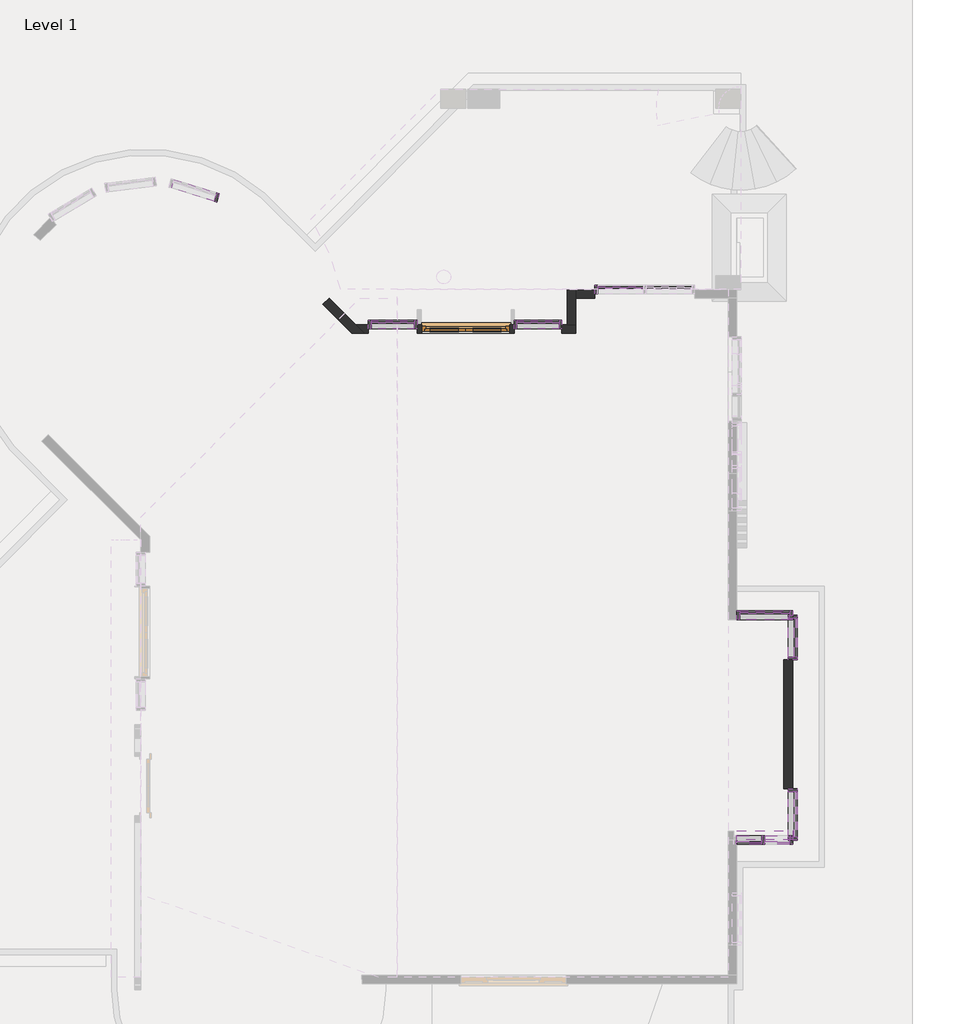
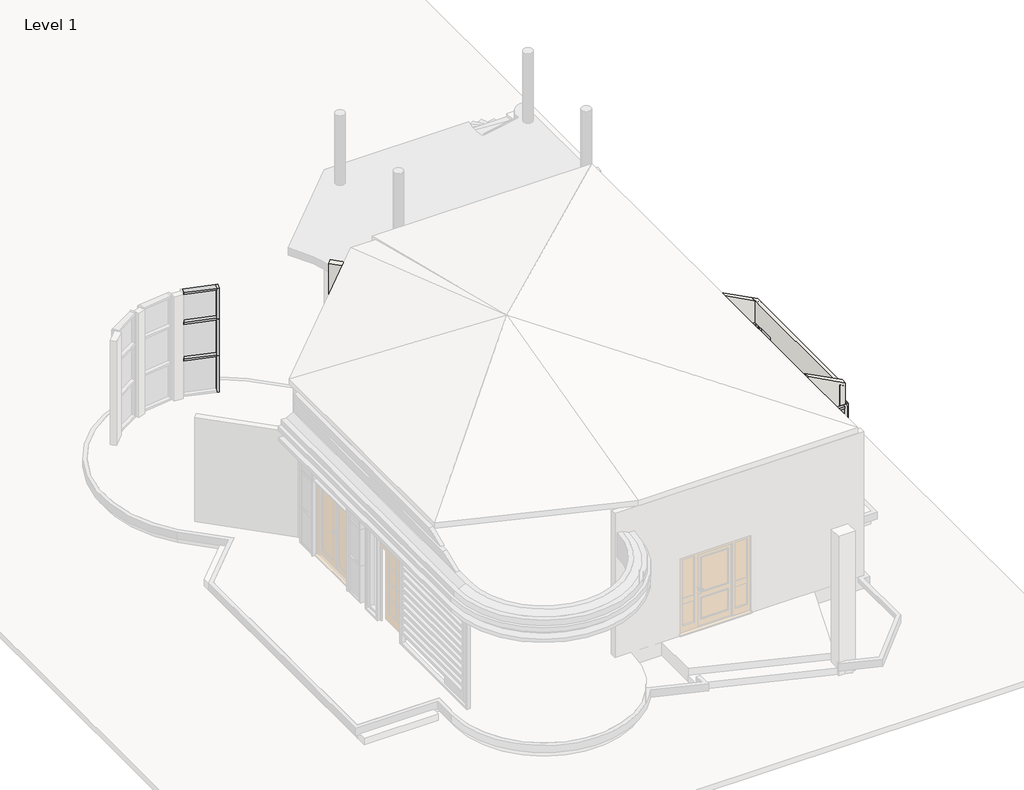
# One storey, part 3 of 4: 72 members, 23 plates, 9 walls, 1 door.
"""IFC4 building model written with IfcOpenShell, lengths in millimetres."""

from ifc_helpers import new_model, si_unit, frame, origin, place, context, project, spatial, polyline, outline, extrude, faceted_brep, transform, mapped, element, save
from components import extdbl_3_1510_x_2110mm_da252324, rectangular_mullion_50_x_150mm_8b63fd42, rectangular_mullion_50_x_150mm_eeb88b28, rectangular_mullion_50_x_150mm_bbba4ab8, rectangular_mullion_50_x_150mm_13f891bf, rectangular_mullion_50_x_150mm_daea3674, rectangular_mullion_50_x_150mm_ed00b6b8, rectangular_mullion_50_x_150mm_bbc1c4ea, rectangular_mullion_50_x_150mm_0f23942f, rectangular_mullion_50_x_150mm_effd6c6d, rectangular_mullion_50_x_150mm_68280b9f, rectangular_mullion_50_x_150mm_601b28fc, rectangular_mullion_50_x_150mm_03f9fa20, rectangular_mullion_50_x_150mm_bf936ab8, rectangular_mullion_50_x_150mm_5cce3f76, rectangular_mullion_50_x_150mm_32319f50, rectangular_mullion_50_x_150mm_64002b5b, rectangular_mullion_50_x_150mm_2829d028, rectangular_mullion_50_x_150mm_963f4f0b, rectangular_mullion_50_x_150mm_ac1718ee, rectangular_mullion_50_x_150mm_eeafe6a4, rectangular_mullion_50_x_150mm_7ec2f866, rectangular_mullion_50_x_150mm_f6b4d59c, rectangular_mullion_50_x_150mm_e82de0b1, system_panel_glazed_e5dbf5a0, system_panel_glazed_14a8cdc4, system_panel_glazed_03360dd4, system_panel_glazed_a2a6a1f5, system_panel_glazed_5b6b6e01, system_panel_glazed_015eb620, system_panel_glazed_5130c531, system_panel_glazed_84d5cb09, system_panel_glazed_d356d63c, system_panel_glazed_c90d999c, system_panel_glazed_4ffc5bf7, system_panel_glazed_0829237f, system_panel_glazed_30afbcb2, system_panel_glazed_d38c71d5, system_panel_glazed_9c9de1b5, system_panel_glazed_0de45067, system_panel_glazed_2309bc3e, system_panel_glazed_d0d156c8

model = new_model("IFC4")

# Units and contexts
model_context = context("Model", 3, world=origin())
ifc_project = project(units=[si_unit("LENGTHUNIT", "METRE", prefix="MILLI")], contexts=[model_context])

# Site, building, storey
site = spatial("IfcSite", under=ifc_project)
building = spatial("IfcBuilding", under=site)
storey = spatial("IfcBuildingStorey", under=building, Name="Level 1", Elevation=0.0)

# Door
placement = place(None, origin())
extdbl_3_1510_x_2110mm_shape = extdbl_3_1510_x_2110mm_da252324(model_context)
element("IfcDoor", 1, ObjectType="ExtDbl (3) : 1510 x 2110mm", at=placement, inside=storey, context=model_context, shape_type="MappedRepresentation", body=[
    mapped(extdbl_3_1510_x_2110mm_shape, transform((36377.9045275, 28118.7215248, 360.0), x_axis=(1.0, 0.0, 0.0), y_axis=(0.0, 1.0, 0.0), z_axis=(0.0, 0.0, 1.0))),
])

# Members
rectangular_mullion_50_x_150mm_shape = rectangular_mullion_50_x_150mm_8b63fd42(model_context)
element("IfcMember", 2, ObjectType="Rectangular Mullion : 50 x 150mm", at=placement, inside=storey, context=model_context, shape_type="MappedRepresentation", body=[
    mapped(rectangular_mullion_50_x_150mm_shape, transform((32096.3492869, 30375.1006846, 1360.0), x_axis=(0.0, 0.0, 1.0), y_axis=(-0.29965542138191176, -0.954047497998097, 0.0), z_axis=(0.954047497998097, -0.29965542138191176, 0.0))),
])
rectangular_mullion_50_x_150mm_2_shape = rectangular_mullion_50_x_150mm_eeb88b28(model_context)
element("IfcMember", 3, ObjectType="Rectangular Mullion : 50 x 150mm", at=placement, inside=storey, context=model_context, shape_type="MappedRepresentation", body=[
    mapped(rectangular_mullion_50_x_150mm_2_shape, transform((32144.0516618, 30360.1179136, 360.0), x_axis=(0.954047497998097, -0.29965542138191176, 0.0), y_axis=(-0.29965542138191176, -0.954047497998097, 0.0), z_axis=(0.0, 0.0, -1.0))),
])
element("IfcMember", 4, ObjectType="Rectangular Mullion : 50 x 150mm", at=placement, inside=storey, context=model_context, shape_type="MappedRepresentation", body=[
    mapped(rectangular_mullion_50_x_150mm_2_shape, transform((41969.1830624, 23222.4424795, 360.0), x_axis=(1.0, 0.0, 0.0), y_axis=(0.0, -1.0, 0.0), z_axis=(0.0, 0.0, -1.0))),
])
element("IfcMember", 5, ObjectType="Rectangular Mullion : 50 x 150mm", at=placement, inside=storey, context=model_context, shape_type="MappedRepresentation", body=[
    mapped(rectangular_mullion_50_x_150mm_2_shape, transform((41969.1830624, 22457.4424795, 360.0), x_axis=(0.0, -1.0, 0.0), y_axis=(-1.0, 0.0, 0.0), z_axis=(0.0, 0.0, -1.0))),
])
element("IfcMember", 6, ObjectType="Rectangular Mullion : 50 x 150mm", at=placement, inside=storey, context=model_context, shape_type="MappedRepresentation", body=[
    mapped(rectangular_mullion_50_x_150mm_2_shape, transform((35551.6259926, 28193.7215248, 360.0), x_axis=(1.0, 0.0, 0.0), y_axis=(0.0, -1.0, 0.0), z_axis=(0.0, 0.0, -1.0))),
])
element("IfcMember", 7, ObjectType="Rectangular Mullion : 50 x 150mm", at=placement, inside=storey, context=model_context, shape_type="MappedRepresentation", body=[
    mapped(rectangular_mullion_50_x_150mm_2_shape, transform((38024.1830624, 28193.7215248, 360.0), x_axis=(1.0, 0.0, 0.0), y_axis=(0.0, -1.0, 0.0), z_axis=(0.0, 0.0, -1.0))),
])
element("IfcMember", 8, ObjectType="Rectangular Mullion : 50 x 150mm", at=placement, inside=storey, context=model_context, shape_type="MappedRepresentation", body=[
    mapped(rectangular_mullion_50_x_150mm_2_shape, transform((41969.1830624, 19377.4424795, 342.0479065), x_axis=(0.0, -1.0, 0.0), y_axis=(-1.0, 0.0, 0.0), z_axis=(0.0, 0.0, -1.0))),
])
element("IfcMember", 9, ObjectType="Rectangular Mullion : 50 x 150mm", at=placement, inside=storey, context=model_context, shape_type="MappedRepresentation", body=[
    mapped(rectangular_mullion_50_x_150mm_2_shape, transform((32144.0516618, 30360.1179136, 1360.0), x_axis=(0.954047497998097, -0.2996554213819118, 0.0), y_axis=(-0.2996554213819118, -0.954047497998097, 0.0), z_axis=(0.0, 0.0, -1.0))),
])
element("IfcMember", 10, ObjectType="Rectangular Mullion : 50 x 150mm", at=placement, inside=storey, context=model_context, shape_type="MappedRepresentation", body=[
    mapped(rectangular_mullion_50_x_150mm_2_shape, transform((41969.1830624, 23222.4424795, 1360.0), x_axis=(1.0, 0.0, 0.0), y_axis=(0.0, -1.0, 0.0), z_axis=(0.0, 0.0, -1.0))),
])
element("IfcMember", 11, ObjectType="Rectangular Mullion : 50 x 150mm", at=placement, inside=storey, context=model_context, shape_type="MappedRepresentation", body=[
    mapped(rectangular_mullion_50_x_150mm_2_shape, transform((41969.1830624, 22457.4424795, 1360.0), x_axis=(0.0, -1.0, 0.0), y_axis=(-1.0, 0.0, 0.0), z_axis=(0.0, 0.0, -1.0))),
])
element("IfcMember", 12, ObjectType="Rectangular Mullion : 50 x 150mm", at=placement, inside=storey, context=model_context, shape_type="MappedRepresentation", body=[
    mapped(rectangular_mullion_50_x_150mm_2_shape, transform((41969.1830624, 19377.4424795, 1342.0479065), x_axis=(0.0, -1.0, 0.0), y_axis=(-1.0, 0.0, 0.0), z_axis=(0.0, 0.0, -1.0))),
])
element("IfcMember", 13, ObjectType="Rectangular Mullion : 50 x 150mm", at=placement, inside=storey, context=model_context, shape_type="MappedRepresentation", body=[
    mapped(rectangular_mullion_50_x_150mm_2_shape, transform((35551.6259926, 28193.7215248, 1360.0), x_axis=(1.0, 0.0, 0.0), y_axis=(0.0, -1.0, 0.0), z_axis=(0.0, 0.0, -1.0))),
])
element("IfcMember", 14, ObjectType="Rectangular Mullion : 50 x 150mm", at=placement, inside=storey, context=model_context, shape_type="MappedRepresentation", body=[
    mapped(rectangular_mullion_50_x_150mm_2_shape, transform((38024.1830624, 28193.7215248, 1360.0), x_axis=(1.0, 0.0, 0.0), y_axis=(0.0, -1.0, 0.0), z_axis=(0.0, 0.0, -1.0))),
])
element("IfcMember", 15, ObjectType="Rectangular Mullion : 50 x 150mm", at=placement, inside=storey, context=model_context, shape_type="MappedRepresentation", body=[
    mapped(rectangular_mullion_50_x_150mm_2_shape, transform((41014.1830624, 23222.4424795, 1360.0), x_axis=(-1.0, 0.0, 0.0), y_axis=(0.0, -1.0, 0.0), z_axis=(0.0, 0.0, 1.0))),
])
element("IfcMember", 16, ObjectType="Rectangular Mullion : 50 x 150mm", at=placement, inside=storey, context=model_context, shape_type="MappedRepresentation", body=[
    mapped(rectangular_mullion_50_x_150mm_2_shape, transform((41969.1830624, 23222.4424795, 1360.0), x_axis=(0.0, 1.0, 0.0), y_axis=(-1.0, 0.0, 0.0), z_axis=(0.0, 0.0, 1.0))),
])
element("IfcMember", 17, ObjectType="Rectangular Mullion : 50 x 150mm", at=placement, inside=storey, context=model_context, shape_type="MappedRepresentation", body=[
    mapped(rectangular_mullion_50_x_150mm_2_shape, transform((41969.1830624, 19377.4424795, 1342.0479065), x_axis=(1.0, 0.0, 0.0), y_axis=(0.0, 1.0, 0.0), z_axis=(0.0, 0.0, 1.0))),
])
element("IfcMember", 18, ObjectType="Rectangular Mullion : 50 x 150mm", at=placement, inside=storey, context=model_context, shape_type="MappedRepresentation", body=[
    mapped(rectangular_mullion_50_x_150mm_2_shape, transform((41969.1830624, 20257.4424795, 1342.0479065), x_axis=(0.0, 1.0, 0.0), y_axis=(-1.0, 0.0, 0.0), z_axis=(0.0, 0.0, 1.0))),
])
element("IfcMember", 19, ObjectType="Rectangular Mullion : 50 x 150mm", at=placement, inside=storey, context=model_context, shape_type="MappedRepresentation", body=[
    mapped(rectangular_mullion_50_x_150mm_2_shape, transform((34711.6259926, 28193.7215248, 1360.0), x_axis=(-1.0, 0.0, 0.0), y_axis=(0.0, -1.0, 0.0), z_axis=(0.0, 0.0, 1.0))),
])
element("IfcMember", 20, ObjectType="Rectangular Mullion : 50 x 150mm", at=placement, inside=storey, context=model_context, shape_type="MappedRepresentation", body=[
    mapped(rectangular_mullion_50_x_150mm_2_shape, transform((37204.1830624, 28193.7215248, 1360.0), x_axis=(-1.0, 0.0, 0.0), y_axis=(0.0, -1.0, 0.0), z_axis=(0.0, 0.0, 1.0))),
])
element("IfcMember", 21, ObjectType="Rectangular Mullion : 50 x 150mm", at=placement, inside=storey, context=model_context, shape_type="MappedRepresentation", body=[
    mapped(rectangular_mullion_50_x_150mm_2_shape, transform((38584.524443, 28793.7215248, 1000.0), x_axis=(-1.0, 0.0, 0.0), y_axis=(0.0, -1.0, 0.0), z_axis=(0.0, 0.0, 1.0))),
])
element("IfcMember", 22, ObjectType="Rectangular Mullion : 50 x 150mm", at=placement, inside=storey, context=model_context, shape_type="MappedRepresentation", body=[
    mapped(rectangular_mullion_50_x_150mm_2_shape, transform((41014.1830624, 23222.4424795, 2360.0), x_axis=(-1.0, 0.0, 0.0), y_axis=(0.0, -1.0, 0.0), z_axis=(0.0, 0.0, 1.0))),
])
element("IfcMember", 23, ObjectType="Rectangular Mullion : 50 x 150mm", at=placement, inside=storey, context=model_context, shape_type="MappedRepresentation", body=[
    mapped(rectangular_mullion_50_x_150mm_2_shape, transform((41969.1830624, 23222.4424795, 2360.0), x_axis=(0.0, 1.0, 0.0), y_axis=(-1.0, 0.0, 0.0), z_axis=(0.0, 0.0, 1.0))),
])
element("IfcMember", 24, ObjectType="Rectangular Mullion : 50 x 150mm", at=placement, inside=storey, context=model_context, shape_type="MappedRepresentation", body=[
    mapped(rectangular_mullion_50_x_150mm_2_shape, transform((41969.1830624, 19377.4424795, 2342.0479065), x_axis=(1.0, 0.0, 0.0), y_axis=(0.0, 1.0, 0.0), z_axis=(0.0, 0.0, 1.0))),
])
element("IfcMember", 25, ObjectType="Rectangular Mullion : 50 x 150mm", at=placement, inside=storey, context=model_context, shape_type="MappedRepresentation", body=[
    mapped(rectangular_mullion_50_x_150mm_2_shape, transform((41969.1830624, 20257.4424795, 2342.0479065), x_axis=(0.0, 1.0, 0.0), y_axis=(-1.0, 0.0, 0.0), z_axis=(0.0, 0.0, 1.0))),
])
element("IfcMember", 26, ObjectType="Rectangular Mullion : 50 x 150mm", at=placement, inside=storey, context=model_context, shape_type="MappedRepresentation", body=[
    mapped(rectangular_mullion_50_x_150mm_2_shape, transform((34711.6259926, 28193.7215248, 2360.0), x_axis=(-1.0, 0.0, 0.0), y_axis=(0.0, -1.0, 0.0), z_axis=(0.0, 0.0, 1.0))),
])
element("IfcMember", 27, ObjectType="Rectangular Mullion : 50 x 150mm", at=placement, inside=storey, context=model_context, shape_type="MappedRepresentation", body=[
    mapped(rectangular_mullion_50_x_150mm_2_shape, transform((37204.1830624, 28193.7215248, 2360.0), x_axis=(-1.0, 0.0, 0.0), y_axis=(0.0, -1.0, 0.0), z_axis=(0.0, 0.0, 1.0))),
])
element("IfcMember", 28, ObjectType="Rectangular Mullion : 50 x 150mm", at=placement, inside=storey, context=model_context, shape_type="MappedRepresentation", body=[
    mapped(rectangular_mullion_50_x_150mm_2_shape, transform((38584.524443, 28793.7215248, 2000.0), x_axis=(-1.0, 0.0, 0.0), y_axis=(0.0, -1.0, 0.0), z_axis=(0.0, 0.0, 1.0))),
])
element("IfcMember", 29, ObjectType="Rectangular Mullion : 50 x 150mm", at=placement, inside=storey, context=model_context, shape_type="MappedRepresentation", body=[
    mapped(rectangular_mullion_50_x_150mm_2_shape, transform((38584.524443, 28793.7215248, 3000.0), x_axis=(-1.0, 0.0, 0.0), y_axis=(0.0, -1.0, 0.0), z_axis=(0.0, 0.0, 1.0))),
])
rectangular_mullion_50_x_150mm_3_shape = rectangular_mullion_50_x_150mm_bbba4ab8(model_context)
element("IfcMember", 30, ObjectType="Rectangular Mullion : 50 x 150mm", at=placement, inside=storey, context=model_context, shape_type="MappedRepresentation", body=[
    mapped(rectangular_mullion_50_x_150mm_3_shape, transform((41014.1830624, 23222.4424795, 3200.0), x_axis=(-1.0, 0.0, 0.0), y_axis=(0.0, -1.0, 0.0), z_axis=(0.0, 0.0, 1.0))),
])
element("IfcMember", 31, ObjectType="Rectangular Mullion : 50 x 150mm", at=placement, inside=storey, context=model_context, shape_type="MappedRepresentation", body=[
    mapped(rectangular_mullion_50_x_150mm_3_shape, transform((41969.1830624, 23222.4424795, 3200.0), x_axis=(0.0, 1.0, 0.0), y_axis=(-1.0, 0.0, 0.0), z_axis=(0.0, 0.0, 1.0))),
])
element("IfcMember", 32, ObjectType="Rectangular Mullion : 50 x 150mm", at=placement, inside=storey, context=model_context, shape_type="MappedRepresentation", body=[
    mapped(rectangular_mullion_50_x_150mm_3_shape, transform((32144.0516618, 30360.1179136, 2360.0), x_axis=(0.954047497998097, -0.2996554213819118, 0.0), y_axis=(-0.2996554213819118, -0.954047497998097, 0.0), z_axis=(0.0, 0.0, -1.0))),
])
element("IfcMember", 33, ObjectType="Rectangular Mullion : 50 x 150mm", at=placement, inside=storey, context=model_context, shape_type="MappedRepresentation", body=[
    mapped(rectangular_mullion_50_x_150mm_3_shape, transform((41969.1830624, 23222.4424795, 2360.0), x_axis=(1.0, 0.0, 0.0), y_axis=(0.0, -1.0, 0.0), z_axis=(0.0, 0.0, -1.0))),
])
element("IfcMember", 34, ObjectType="Rectangular Mullion : 50 x 150mm", at=placement, inside=storey, context=model_context, shape_type="MappedRepresentation", body=[
    mapped(rectangular_mullion_50_x_150mm_3_shape, transform((41969.1830624, 22457.4424795, 2360.0), x_axis=(0.0, -1.0, 0.0), y_axis=(-1.0, 0.0, 0.0), z_axis=(0.0, 0.0, -1.0))),
])
rectangular_mullion_50_x_150mm_4_shape = rectangular_mullion_50_x_150mm_13f891bf(model_context)
element("IfcMember", 35, ObjectType="Rectangular Mullion : 50 x 150mm", at=placement, inside=storey, context=model_context, shape_type="MappedRepresentation", body=[
    mapped(rectangular_mullion_50_x_150mm_4_shape, transform((32096.3492869, 30375.1006846, 3200.0), x_axis=(0.0, 0.0, 1.0), y_axis=(-0.29965542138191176, -0.954047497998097, 0.0), z_axis=(0.954047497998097, -0.29965542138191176, 0.0))),
])
element("IfcMember", 36, ObjectType="Rectangular Mullion : 50 x 150mm", at=placement, inside=storey, context=model_context, shape_type="MappedRepresentation", body=[
    mapped(rectangular_mullion_50_x_150mm_shape, transform((32096.3492869, 30375.1006846, 2360.0), x_axis=(0.0, 0.0, 1.0), y_axis=(-0.29965542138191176, -0.954047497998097, 0.0), z_axis=(0.954047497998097, -0.29965542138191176, 0.0))),
])
rectangular_mullion_50_x_150mm_5_shape = rectangular_mullion_50_x_150mm_daea3674(model_context)
element("IfcMember", 37, ObjectType="Rectangular Mullion : 50 x 150mm", at=placement, inside=storey, context=model_context, shape_type="MappedRepresentation", body=[
    mapped(rectangular_mullion_50_x_150mm_5_shape, transform((41489.1830624, 19377.4424795, 3200.0), x_axis=(0.0, 0.0, 1.0), y_axis=(0.0, 1.0, 0.0), z_axis=(-1.0, 0.0, 0.0))),
])
element("IfcMember", 38, ObjectType="Rectangular Mullion : 50 x 150mm", at=placement, inside=storey, context=model_context, shape_type="MappedRepresentation", body=[
    mapped(rectangular_mullion_50_x_150mm_5_shape, transform((41439.1830624, 19377.4424795, 342.0479065), x_axis=(0.0, 0.0, -1.0), y_axis=(0.0, 1.0, 0.0), z_axis=(1.0, 0.0, 0.0))),
])
rectangular_mullion_50_x_150mm_6_shape = rectangular_mullion_50_x_150mm_ed00b6b8(model_context)
element("IfcMember", 39, ObjectType="Rectangular Mullion : 50 x 150mm", at=placement, inside=storey, context=model_context, shape_type="MappedRepresentation", body=[
    mapped(rectangular_mullion_50_x_150mm_6_shape, transform((41489.1830624, 19377.4424795, 1342.0479065), x_axis=(0.0, 0.0, 1.0), y_axis=(0.0, 1.0, 0.0), z_axis=(-1.0, 0.0, 0.0))),
])
element("IfcMember", 40, ObjectType="Rectangular Mullion : 50 x 150mm", at=placement, inside=storey, context=model_context, shape_type="MappedRepresentation", body=[
    mapped(rectangular_mullion_50_x_150mm_6_shape, transform((41009.1830624, 19377.4424795, 1342.0479065), x_axis=(0.0, 0.0, 1.0), y_axis=(0.0, 1.0, 0.0), z_axis=(-1.0, 0.0, 0.0))),
])
element("IfcMember", 41, ObjectType="Rectangular Mullion : 50 x 150mm", at=placement, inside=storey, context=model_context, shape_type="MappedRepresentation", body=[
    mapped(rectangular_mullion_50_x_150mm_6_shape, transform((41489.1830624, 19377.4424795, 2342.0479065), x_axis=(0.0, 0.0, 1.0), y_axis=(0.0, 1.0, 0.0), z_axis=(-1.0, 0.0, 0.0))),
])
element("IfcMember", 42, ObjectType="Rectangular Mullion : 50 x 150mm", at=placement, inside=storey, context=model_context, shape_type="MappedRepresentation", body=[
    mapped(rectangular_mullion_50_x_150mm_6_shape, transform((41009.1830624, 19377.4424795, 2342.0479065), x_axis=(0.0, 0.0, 1.0), y_axis=(0.0, 1.0, 0.0), z_axis=(-1.0, 0.0, 0.0))),
])
rectangular_mullion_50_x_150mm_7_shape = rectangular_mullion_50_x_150mm_bbc1c4ea(model_context)
element("IfcMember", 43, ObjectType="Rectangular Mullion : 50 x 150mm", at=placement, inside=storey, context=model_context, shape_type="MappedRepresentation", body=[
    mapped(rectangular_mullion_50_x_150mm_7_shape, transform((41464.1830624, 19377.4424795, 342.0479065), x_axis=(-1.0, 0.0, 0.0), y_axis=(0.0, 1.0, 0.0), z_axis=(0.0, 0.0, -1.0))),
])
element("IfcMember", 44, ObjectType="Rectangular Mullion : 50 x 150mm", at=placement, inside=storey, context=model_context, shape_type="MappedRepresentation", body=[
    mapped(rectangular_mullion_50_x_150mm_7_shape, transform((41464.1830624, 19377.4424795, 1342.0479065), x_axis=(-1.0, 0.0, 0.0), y_axis=(0.0, 1.0, 0.0), z_axis=(0.0, 0.0, -1.0))),
])
rectangular_mullion_50_x_150mm_8_shape = rectangular_mullion_50_x_150mm_0f23942f(model_context)
element("IfcMember", 45, ObjectType="Rectangular Mullion : 50 x 150mm", at=placement, inside=storey, context=model_context, shape_type="MappedRepresentation", body=[
    mapped(rectangular_mullion_50_x_150mm_8_shape, transform((35501.6259926, 28193.7215248, 2963.5829413), x_axis=(0.0, 0.0, 1.0), y_axis=(0.0, -1.0, 0.0), z_axis=(1.0, 0.0, 0.0))),
])
element("IfcMember", 46, ObjectType="Rectangular Mullion : 50 x 150mm", at=placement, inside=storey, context=model_context, shape_type="MappedRepresentation", body=[
    mapped(rectangular_mullion_50_x_150mm_8_shape, transform((34761.6259926, 28193.7215248, 360.0), x_axis=(0.0, 0.0, -1.0), y_axis=(0.0, -1.0, 0.0), z_axis=(-1.0, 0.0, 0.0))),
])
rectangular_mullion_50_x_150mm_9_shape = rectangular_mullion_50_x_150mm_effd6c6d(model_context)
element("IfcMember", 47, ObjectType="Rectangular Mullion : 50 x 150mm", at=placement, inside=storey, context=model_context, shape_type="MappedRepresentation", body=[
    mapped(rectangular_mullion_50_x_150mm_9_shape, transform((35501.6259926, 28193.7215248, 1360.0), x_axis=(0.0, 0.0, 1.0), y_axis=(0.0, -1.0, 0.0), z_axis=(1.0, 0.0, 0.0))),
])
element("IfcMember", 48, ObjectType="Rectangular Mullion : 50 x 150mm", at=placement, inside=storey, context=model_context, shape_type="MappedRepresentation", body=[
    mapped(rectangular_mullion_50_x_150mm_9_shape, transform((35501.6259926, 28193.7215248, 2360.0), x_axis=(0.0, 0.0, 1.0), y_axis=(0.0, -1.0, 0.0), z_axis=(1.0, 0.0, 0.0))),
])
rectangular_mullion_50_x_150mm_10_shape = rectangular_mullion_50_x_150mm_68280b9f(model_context)
element("IfcMember", 49, ObjectType="Rectangular Mullion : 50 x 150mm", at=placement, inside=storey, context=model_context, shape_type="MappedRepresentation", body=[
    mapped(rectangular_mullion_50_x_150mm_10_shape, transform((37974.1830624, 28193.7215248, 2951.4776696), x_axis=(0.0, 0.0, 1.0), y_axis=(0.0, -1.0, 0.0), z_axis=(1.0, 0.0, 0.0))),
])
element("IfcMember", 50, ObjectType="Rectangular Mullion : 50 x 150mm", at=placement, inside=storey, context=model_context, shape_type="MappedRepresentation", body=[
    mapped(rectangular_mullion_50_x_150mm_10_shape, transform((37254.1830624, 28193.7215248, 360.0), x_axis=(0.0, 0.0, -1.0), y_axis=(0.0, -1.0, 0.0), z_axis=(-1.0, 0.0, 0.0))),
])
rectangular_mullion_50_x_150mm_11_shape = rectangular_mullion_50_x_150mm_601b28fc(model_context)
element("IfcMember", 51, ObjectType="Rectangular Mullion : 50 x 150mm", at=placement, inside=storey, context=model_context, shape_type="MappedRepresentation", body=[
    mapped(rectangular_mullion_50_x_150mm_11_shape, transform((37974.1830624, 28193.7215248, 1360.0), x_axis=(0.0, 0.0, 1.0), y_axis=(0.0, -1.0, 0.0), z_axis=(1.0, 0.0, 0.0))),
])
element("IfcMember", 52, ObjectType="Rectangular Mullion : 50 x 150mm", at=placement, inside=storey, context=model_context, shape_type="MappedRepresentation", body=[
    mapped(rectangular_mullion_50_x_150mm_11_shape, transform((37974.1830624, 28193.7215248, 2360.0), x_axis=(0.0, 0.0, 1.0), y_axis=(0.0, -1.0, 0.0), z_axis=(1.0, 0.0, 0.0))),
])
rectangular_mullion_50_x_150mm_12_shape = rectangular_mullion_50_x_150mm_03f9fa20(model_context)
element("IfcMember", 53, ObjectType="Rectangular Mullion : 50 x 150mm", at=placement, inside=storey, context=model_context, shape_type="MappedRepresentation", body=[
    mapped(rectangular_mullion_50_x_150mm_12_shape, transform((38584.524443, 28793.7215248, 3200.0), x_axis=(-1.0, 0.0, 0.0), y_axis=(0.0, -1.0, 0.0), z_axis=(0.0, 0.0, 1.0))),
])
rectangular_mullion_50_x_150mm_13_shape = rectangular_mullion_50_x_150mm_bf936ab8(model_context)
element("IfcMember", 54, ObjectType="Rectangular Mullion : 50 x 150mm", at=placement, inside=storey, context=model_context, shape_type="MappedRepresentation", body=[
    mapped(rectangular_mullion_50_x_150mm_13_shape, transform((41464.1830624, 19377.4424795, 2342.0479065), x_axis=(-1.0, 0.0, 0.0), y_axis=(0.0, 1.0, 0.0), z_axis=(0.0, 0.0, -1.0))),
])
rectangular_mullion_50_x_150mm_14_shape = rectangular_mullion_50_x_150mm_5cce3f76(model_context)
element("IfcMember", 55, ObjectType="Rectangular Mullion : 50 x 150mm", at=placement, inside=storey, context=model_context, shape_type="MappedRepresentation", body=[
    mapped(rectangular_mullion_50_x_150mm_14_shape, transform((41969.1830624, 20257.4424795, 3200.0), x_axis=(0.0, 1.0, 0.0), y_axis=(-1.0, 0.0, 0.0), z_axis=(0.0, 0.0, 1.0))),
])
element("IfcMember", 56, ObjectType="Rectangular Mullion : 50 x 150mm", at=placement, inside=storey, context=model_context, shape_type="MappedRepresentation", body=[
    mapped(rectangular_mullion_50_x_150mm_14_shape, transform((41969.1830624, 19377.4424795, 2342.0479065), x_axis=(0.0, -1.0, 0.0), y_axis=(-1.0, 0.0, 0.0), z_axis=(0.0, 0.0, -1.0))),
])
rectangular_mullion_50_x_150mm_15_shape = rectangular_mullion_50_x_150mm_32319f50(model_context)
element("IfcMember", 57, ObjectType="Rectangular Mullion : 50 x 150mm", at=placement, inside=storey, context=model_context, shape_type="MappedRepresentation", body=[
    mapped(rectangular_mullion_50_x_150mm_15_shape, transform((41919.1830624, 23222.4424795, 3200.0), x_axis=(0.0, 0.0, 1.0), y_axis=(0.0, -1.0, 0.0), z_axis=(1.0, 0.0, 0.0))),
])
element("IfcMember", 58, ObjectType="Rectangular Mullion : 50 x 150mm", at=placement, inside=storey, context=model_context, shape_type="MappedRepresentation", body=[
    mapped(rectangular_mullion_50_x_150mm_15_shape, transform((41064.1830624, 23222.4424795, 360.0), x_axis=(0.0, 0.0, -1.0), y_axis=(0.0, -1.0, 0.0), z_axis=(-1.0, 0.0, 0.0))),
])
rectangular_mullion_50_x_150mm_16_shape = rectangular_mullion_50_x_150mm_64002b5b(model_context)
element("IfcMember", 59, ObjectType="Rectangular Mullion : 50 x 150mm", at=placement, inside=storey, context=model_context, shape_type="MappedRepresentation", body=[
    mapped(rectangular_mullion_50_x_150mm_16_shape, transform((41919.1830624, 23222.4424795, 1360.0), x_axis=(0.0, 0.0, 1.0), y_axis=(0.0, -1.0, 0.0), z_axis=(1.0, 0.0, 0.0))),
])
element("IfcMember", 60, ObjectType="Rectangular Mullion : 50 x 150mm", at=placement, inside=storey, context=model_context, shape_type="MappedRepresentation", body=[
    mapped(rectangular_mullion_50_x_150mm_16_shape, transform((41919.1830624, 23222.4424795, 2360.0), x_axis=(0.0, 0.0, 1.0), y_axis=(0.0, -1.0, 0.0), z_axis=(1.0, 0.0, 0.0))),
])
rectangular_mullion_50_x_150mm_17_shape = rectangular_mullion_50_x_150mm_2829d028(model_context)
element("IfcMember", 61, ObjectType="Rectangular Mullion : 50 x 150mm", at=placement, inside=storey, context=model_context, shape_type="MappedRepresentation", body=[
    mapped(rectangular_mullion_50_x_150mm_17_shape, transform((41969.1830624, 22507.4424795, 3200.0), x_axis=(0.0, 0.0, 1.0), y_axis=(-1.0, 0.0, 0.0), z_axis=(0.0, -1.0, 0.0))),
])
element("IfcMember", 62, ObjectType="Rectangular Mullion : 50 x 150mm", at=placement, inside=storey, context=model_context, shape_type="MappedRepresentation", body=[
    mapped(rectangular_mullion_50_x_150mm_17_shape, transform((41969.1830624, 23172.4424795, 360.0), x_axis=(0.0, 0.0, -1.0), y_axis=(-1.0, 0.0, 0.0), z_axis=(0.0, 1.0, 0.0))),
])
rectangular_mullion_50_x_150mm_18_shape = rectangular_mullion_50_x_150mm_963f4f0b(model_context)
element("IfcMember", 63, ObjectType="Rectangular Mullion : 50 x 150mm", at=placement, inside=storey, context=model_context, shape_type="MappedRepresentation", body=[
    mapped(rectangular_mullion_50_x_150mm_18_shape, transform((41969.1830624, 22507.4424795, 1360.0), x_axis=(0.0, 0.0, 1.0), y_axis=(-1.0, 0.0, 0.0), z_axis=(0.0, -1.0, 0.0))),
])
element("IfcMember", 64, ObjectType="Rectangular Mullion : 50 x 150mm", at=placement, inside=storey, context=model_context, shape_type="MappedRepresentation", body=[
    mapped(rectangular_mullion_50_x_150mm_18_shape, transform((41969.1830624, 22507.4424795, 2360.0), x_axis=(0.0, 0.0, 1.0), y_axis=(-1.0, 0.0, 0.0), z_axis=(0.0, -1.0, 0.0))),
])
rectangular_mullion_50_x_150mm_19_shape = rectangular_mullion_50_x_150mm_ac1718ee(model_context)
element("IfcMember", 65, ObjectType="Rectangular Mullion : 50 x 150mm", at=placement, inside=storey, context=model_context, shape_type="MappedRepresentation", body=[
    mapped(rectangular_mullion_50_x_150mm_19_shape, transform((34711.6259926, 28193.7215248, 2963.5829413), x_axis=(-1.0, 0.0, 0.0), y_axis=(0.0, -1.0, 0.0), z_axis=(0.0, 0.0, 1.0))),
])
element("IfcMember", 66, ObjectType="Rectangular Mullion : 50 x 150mm", at=placement, inside=storey, context=model_context, shape_type="MappedRepresentation", body=[
    mapped(rectangular_mullion_50_x_150mm_19_shape, transform((35551.6259926, 28193.7215248, 2360.0), x_axis=(1.0, 0.0, 0.0), y_axis=(0.0, -1.0, 0.0), z_axis=(0.0, 0.0, -1.0))),
])
rectangular_mullion_50_x_150mm_20_shape = rectangular_mullion_50_x_150mm_eeafe6a4(model_context)
element("IfcMember", 67, ObjectType="Rectangular Mullion : 50 x 150mm", at=placement, inside=storey, context=model_context, shape_type="MappedRepresentation", body=[
    mapped(rectangular_mullion_50_x_150mm_20_shape, transform((37204.1830624, 28193.7215248, 2951.4776696), x_axis=(-1.0, 0.0, 0.0), y_axis=(0.0, -1.0, 0.0), z_axis=(0.0, 0.0, 1.0))),
])
element("IfcMember", 68, ObjectType="Rectangular Mullion : 50 x 150mm", at=placement, inside=storey, context=model_context, shape_type="MappedRepresentation", body=[
    mapped(rectangular_mullion_50_x_150mm_20_shape, transform((38024.1830624, 28193.7215248, 2360.0), x_axis=(1.0, 0.0, 0.0), y_axis=(0.0, -1.0, 0.0), z_axis=(0.0, 0.0, -1.0))),
])
rectangular_mullion_50_x_150mm_21_shape = rectangular_mullion_50_x_150mm_7ec2f866(model_context)
element("IfcMember", 69, ObjectType="Rectangular Mullion : 50 x 150mm", at=placement, inside=storey, context=model_context, shape_type="MappedRepresentation", body=[
    mapped(rectangular_mullion_50_x_150mm_21_shape, transform((41969.1830624, 19427.4424795, 3200.0), x_axis=(0.0, 0.0, 1.0), y_axis=(-1.0, 0.0, 0.0), z_axis=(0.0, -1.0, 0.0))),
])
element("IfcMember", 70, ObjectType="Rectangular Mullion : 50 x 150mm", at=placement, inside=storey, context=model_context, shape_type="MappedRepresentation", body=[
    mapped(rectangular_mullion_50_x_150mm_21_shape, transform((41969.1830624, 20207.4424795, 342.0479065), x_axis=(0.0, 0.0, -1.0), y_axis=(-1.0, 0.0, 0.0), z_axis=(0.0, 1.0, 0.0))),
])
rectangular_mullion_50_x_150mm_22_shape = rectangular_mullion_50_x_150mm_f6b4d59c(model_context)
element("IfcMember", 71, ObjectType="Rectangular Mullion : 50 x 150mm", at=placement, inside=storey, context=model_context, shape_type="MappedRepresentation", body=[
    mapped(rectangular_mullion_50_x_150mm_22_shape, transform((41969.1830624, 19427.4424795, 1342.0479065), x_axis=(0.0, 0.0, 1.0), y_axis=(-1.0, 0.0, 0.0), z_axis=(0.0, -1.0, 0.0))),
])
element("IfcMember", 72, ObjectType="Rectangular Mullion : 50 x 150mm", at=placement, inside=storey, context=model_context, shape_type="MappedRepresentation", body=[
    mapped(rectangular_mullion_50_x_150mm_22_shape, transform((41969.1830624, 19427.4424795, 2342.0479065), x_axis=(0.0, 0.0, 1.0), y_axis=(-1.0, 0.0, 0.0), z_axis=(0.0, -1.0, 0.0))),
])
rectangular_mullion_50_x_150mm_23_shape = rectangular_mullion_50_x_150mm_e82de0b1(model_context)
element("IfcMember", 73, ObjectType="Rectangular Mullion : 50 x 150mm", at=placement, inside=storey, context=model_context, shape_type="MappedRepresentation", body=[
    mapped(rectangular_mullion_50_x_150mm_23_shape, transform((38634.524443, 28793.7215248, 0.0), x_axis=(0.0, 0.0, -1.0), y_axis=(0.0, -1.0, 0.0), z_axis=(-1.0, 0.0, 0.0))),
])

# Plates
system_panel_glazed_shape = system_panel_glazed_e5dbf5a0(model_context)
element("IfcPlate", 74, ObjectType="System Panel : Glazed", at=placement, inside=storey, context=model_context, shape_type="MappedRepresentation", body=[
    mapped(system_panel_glazed_shape, transform((35131.6259926, 28193.7215248, 410.0), x_axis=(1.0, 0.0, 0.0), y_axis=(0.0, 1.0, 0.0), z_axis=(0.0, 0.0, 1.0))),
])
system_panel_glazed_2_shape = system_panel_glazed_14a8cdc4(model_context)
element("IfcPlate", 75, ObjectType="System Panel : Glazed", at=placement, inside=storey, context=model_context, shape_type="MappedRepresentation", body=[
    mapped(system_panel_glazed_2_shape, transform((37614.1830624, 28193.7215248, 410.0), x_axis=(1.0, 0.0, 0.0), y_axis=(0.0, 1.0, 0.0), z_axis=(0.0, 0.0, 1.0))),
])
system_panel_glazed_3_shape = system_panel_glazed_03360dd4(model_context)
element("IfcPlate", 76, ObjectType="System Panel : Glazed", at=placement, inside=storey, context=model_context, shape_type="MappedRepresentation", body=[
    mapped(system_panel_glazed_3_shape, transform((35131.6259926, 28193.7215248, 1385.0), x_axis=(1.0, 0.0, 0.0), y_axis=(0.0, 1.0, 0.0), z_axis=(0.0, 0.0, 1.0))),
])
system_panel_glazed_4_shape = system_panel_glazed_a2a6a1f5(model_context)
element("IfcPlate", 77, ObjectType="System Panel : Glazed", at=placement, inside=storey, context=model_context, shape_type="MappedRepresentation", body=[
    mapped(system_panel_glazed_4_shape, transform((37614.1830624, 28193.7215248, 1385.0), x_axis=(1.0, 0.0, 0.0), y_axis=(0.0, 1.0, 0.0), z_axis=(0.0, 0.0, 1.0))),
])
system_panel_glazed_5_shape = system_panel_glazed_5b6b6e01(model_context)
element("IfcPlate", 78, ObjectType="System Panel : Glazed", at=placement, inside=storey, context=model_context, shape_type="MappedRepresentation", body=[
    mapped(system_panel_glazed_5_shape, transform((41704.1830624, 19377.4424795, 2367.0479065), x_axis=(-1.0, 0.0, 0.0), y_axis=(0.0, -1.0, 0.0), z_axis=(0.0, 0.0, 1.0))),
])
element("IfcPlate", 79, ObjectType="System Panel : Glazed", at=placement, inside=storey, context=model_context, shape_type="MappedRepresentation", body=[
    mapped(system_panel_glazed_5_shape, transform((41224.1830624, 19377.4424795, 2367.0479065), x_axis=(-1.0, 0.0, 0.0), y_axis=(0.0, -1.0, 0.0), z_axis=(0.0, 0.0, 1.0))),
])
system_panel_glazed_6_shape = system_panel_glazed_015eb620(model_context)
element("IfcPlate", 80, ObjectType="System Panel : Glazed", at=placement, inside=storey, context=model_context, shape_type="MappedRepresentation", body=[
    mapped(system_panel_glazed_6_shape, transform((41491.6830624, 23222.4424795, 410.0), x_axis=(1.0, 0.0, 0.0), y_axis=(0.0, 1.0, 0.0), z_axis=(0.0, 0.0, 1.0))),
])
system_panel_glazed_7_shape = system_panel_glazed_5130c531(model_context)
element("IfcPlate", 81, ObjectType="System Panel : Glazed", at=placement, inside=storey, context=model_context, shape_type="MappedRepresentation", body=[
    mapped(system_panel_glazed_7_shape, transform((41969.1830624, 22839.9424795, 410.0), x_axis=(0.0, -1.0, 0.0), y_axis=(1.0, 0.0, 0.0), z_axis=(0.0, 0.0, 1.0))),
])
system_panel_glazed_8_shape = system_panel_glazed_84d5cb09(model_context)
element("IfcPlate", 82, ObjectType="System Panel : Glazed", at=placement, inside=storey, context=model_context, shape_type="MappedRepresentation", body=[
    mapped(system_panel_glazed_8_shape, transform((41491.6830624, 23222.4424795, 1385.0), x_axis=(1.0, 0.0, 0.0), y_axis=(0.0, 1.0, 0.0), z_axis=(0.0, 0.0, 1.0))),
])
system_panel_glazed_9_shape = system_panel_glazed_d356d63c(model_context)
element("IfcPlate", 83, ObjectType="System Panel : Glazed", at=placement, inside=storey, context=model_context, shape_type="MappedRepresentation", body=[
    mapped(system_panel_glazed_9_shape, transform((41969.1830624, 22839.9424795, 1385.0), x_axis=(0.0, -1.0, 0.0), y_axis=(1.0, 0.0, 0.0), z_axis=(0.0, 0.0, 1.0))),
])
system_panel_glazed_10_shape = system_panel_glazed_c90d999c(model_context)
element("IfcPlate", 84, ObjectType="System Panel : Glazed", at=placement, inside=storey, context=model_context, shape_type="MappedRepresentation", body=[
    mapped(system_panel_glazed_10_shape, transform((41491.6830624, 23222.4424795, 2385.0), x_axis=(1.0, 0.0, 0.0), y_axis=(0.0, 1.0, 0.0), z_axis=(0.0, 0.0, 1.0))),
])
system_panel_glazed_11_shape = system_panel_glazed_4ffc5bf7(model_context)
element("IfcPlate", 85, ObjectType="System Panel : Glazed", at=placement, inside=storey, context=model_context, shape_type="MappedRepresentation", body=[
    mapped(system_panel_glazed_11_shape, transform((41969.1830624, 22839.9424795, 2385.0), x_axis=(0.0, -1.0, 0.0), y_axis=(1.0, 0.0, 0.0), z_axis=(0.0, 0.0, 1.0))),
])
system_panel_glazed_12_shape = system_panel_glazed_0829237f(model_context)
element("IfcPlate", 86, ObjectType="System Panel : Glazed", at=placement, inside=storey, context=model_context, shape_type="MappedRepresentation", body=[
    mapped(system_panel_glazed_12_shape, transform((35131.6259926, 28193.7215248, 2385.0), x_axis=(1.0, 0.0, 0.0), y_axis=(0.0, 1.0, 0.0), z_axis=(0.0, 0.0, 1.0))),
])
system_panel_glazed_13_shape = system_panel_glazed_30afbcb2(model_context)
element("IfcPlate", 87, ObjectType="System Panel : Glazed", at=placement, inside=storey, context=model_context, shape_type="MappedRepresentation", body=[
    mapped(system_panel_glazed_13_shape, transform((37614.1830624, 28193.7215248, 2385.0), x_axis=(1.0, 0.0, 0.0), y_axis=(0.0, 1.0, 0.0), z_axis=(0.0, 0.0, 1.0))),
])
system_panel_glazed_14_shape = system_panel_glazed_d38c71d5(model_context)
element("IfcPlate", 88, ObjectType="System Panel : Glazed", at=placement, inside=storey, context=model_context, shape_type="MappedRepresentation", body=[
    mapped(system_panel_glazed_14_shape, transform((41969.1830624, 19817.4424795, 1367.0479065), x_axis=(0.0, -1.0, 0.0), y_axis=(1.0, 0.0, 0.0), z_axis=(0.0, 0.0, 1.0))),
])
system_panel_glazed_15_shape = system_panel_glazed_9c9de1b5(model_context)
element("IfcPlate", 89, ObjectType="System Panel : Glazed", at=placement, inside=storey, context=model_context, shape_type="MappedRepresentation", body=[
    mapped(system_panel_glazed_15_shape, transform((41969.1830624, 19817.4424795, 2367.0479065), x_axis=(0.0, -1.0, 0.0), y_axis=(1.0, 0.0, 0.0), z_axis=(0.0, 0.0, 1.0))),
])
system_panel_glazed_16_shape = system_panel_glazed_0de45067(model_context)
element("IfcPlate", 90, ObjectType="System Panel : Glazed", at=placement, inside=storey, context=model_context, shape_type="MappedRepresentation", body=[
    mapped(system_panel_glazed_16_shape, transform((39024.4390979, 28793.7215248, 50.0), x_axis=(1.0, 0.0, 0.0), y_axis=(0.0, 1.0, 0.0), z_axis=(0.0, 0.0, 1.0))),
])
element("IfcPlate", 91, ObjectType="System Panel : Glazed", at=placement, inside=storey, context=model_context, shape_type="MappedRepresentation", body=[
    mapped(system_panel_glazed_16_shape, transform((39854.2684075, 28793.7215248, 50.0), x_axis=(1.0, 0.0, 0.0), y_axis=(0.0, 1.0, 0.0), z_axis=(0.0, 0.0, 1.0))),
])
system_panel_glazed_17_shape = system_panel_glazed_2309bc3e(model_context)
element("IfcPlate", 92, ObjectType="System Panel : Glazed", at=placement, inside=storey, context=model_context, shape_type="MappedRepresentation", body=[
    mapped(system_panel_glazed_17_shape, transform((39024.4390979, 28793.7215248, 1025.0), x_axis=(1.0, 0.0, 0.0), y_axis=(0.0, 1.0, 0.0), z_axis=(0.0, 0.0, 1.0))),
])
element("IfcPlate", 93, ObjectType="System Panel : Glazed", at=placement, inside=storey, context=model_context, shape_type="MappedRepresentation", body=[
    mapped(system_panel_glazed_17_shape, transform((39854.2684075, 28793.7215248, 1025.0), x_axis=(1.0, 0.0, 0.0), y_axis=(0.0, 1.0, 0.0), z_axis=(0.0, 0.0, 1.0))),
])
element("IfcPlate", 94, ObjectType="System Panel : Glazed", at=placement, inside=storey, context=model_context, shape_type="MappedRepresentation", body=[
    mapped(system_panel_glazed_17_shape, transform((39024.4390979, 28793.7215248, 2025.0), x_axis=(1.0, 0.0, 0.0), y_axis=(0.0, 1.0, 0.0), z_axis=(0.0, 0.0, 1.0))),
])
element("IfcPlate", 95, ObjectType="System Panel : Glazed", at=placement, inside=storey, context=model_context, shape_type="MappedRepresentation", body=[
    mapped(system_panel_glazed_17_shape, transform((39854.2684075, 28793.7215248, 2025.0), x_axis=(1.0, 0.0, 0.0), y_axis=(0.0, 1.0, 0.0), z_axis=(0.0, 0.0, 1.0))),
])
system_panel_glazed_18_shape = system_panel_glazed_d0d156c8(model_context)
element("IfcPlate", 96, ObjectType="System Panel : Glazed", at=placement, inside=storey, context=model_context, shape_type="MappedRepresentation", body=[
    mapped(system_panel_glazed_18_shape, transform((39024.4390979, 28793.7215248, 3025.0), x_axis=(1.0, 0.0, 0.0), y_axis=(0.0, 1.0, 0.0), z_axis=(0.0, 0.0, 1.0))),
])

# Walls
element("IfcWall", 97, ObjectType="Generic -150mm 2", at=placement, inside=storey, context=model_context, shape_type="Brep", body=[
    faceted_brep([(34641.6259926, 28043.7215248, 0.0), (34711.6259926, 28043.7215248, 0.0), (34711.6259926, 28043.7215248, 2963.5829413), (35551.6259926, 28043.7215248, 2963.5829413), (35551.6259926, 28043.7215248, 4370.0359999), (34641.6259926, 28043.7215248, 4370.0359999), (34641.6259926, 28043.7215248, 4296.689055), (34491.6259926, 28193.7215248, 0.0), (34491.6259926, 28193.7215248, 4370.0359999), (35551.6259926, 28193.7215248, 4370.0359999), (35551.6259926, 28193.7215248, 2963.5829413), (34711.6259926, 28193.7215248, 2963.5829413), (34711.6259926, 28193.7215248, 0.0)], [[[0, 1, 2, 3, 4, 5, 6]], [[7, 8, 9, 10, 11, 12]], [[0, 6, 5, 8, 7]], [[1, 0, 7, 12]], [[2, 1, 12, 11]], [[5, 4, 9, 8]], [[3, 2, 11, 10]], [[4, 3, 10, 9]]]),
    faceted_brep([(38024.1830624, 28043.7215248, 2951.4776696), (38024.1830624, 28043.7215248, 4338.9548259), (38024.1830624, 28043.7215248, 4370.0359999), (37204.1830624, 28043.7215248, 4370.0359999), (37204.1830624, 28043.7215248, 2951.4776696), (38024.1830624, 28193.7215248, 2951.4776696), (37204.1830624, 28193.7215248, 2951.4776696), (37204.1830624, 28193.7215248, 4370.0359999), (38024.1830624, 28193.7215248, 4370.0359999), (38024.1830624, 28193.7215248, 4338.9548259)], [[[0, 1, 2, 3, 4]], [[5, 6, 7, 8, 9]], [[2, 1, 0, 5, 9, 8]], [[3, 2, 8, 7]], [[4, 3, 7, 6]], [[0, 4, 6, 5]]]),
])
element("IfcWall", 98, ObjectType="Generic -150mm 2", at=placement, inside=storey, context=model_context, shape_type="Brep", body=[
    faceted_brep([(38264.1830624, 28193.7215248, 0.0), (38264.1830624, 28643.7215248, 0.0), (38264.1830624, 28793.7215248, 0.0), (38264.1830624, 28793.7215248, 4290.0), (38264.1830624, 28643.7215248, 4290.0), (38264.1830624, 28193.7215248, 4290.0), (38114.1830624, 28193.7215248, 0.0), (38114.1830624, 28193.7215248, 4290.0), (38114.1830624, 28793.7215248, 4290.0), (38114.1830624, 28793.7215248, 0.0)], [[[0, 1, 2, 3, 4, 5]], [[6, 7, 8, 9]], [[2, 1, 0, 6, 9]], [[5, 4, 3, 8, 7]], [[3, 2, 9, 8]], [[0, 5, 7, 6]]]),
])
element("IfcWall", 99, ObjectType="Generic -150mm 2", at=placement, inside=storey, context=model_context, shape_type="SweptSolid", body=[
    extrude(outline(polyline([(0.0, 38264.1830624), (0.0, 38584.524443), (3119.685322, 38584.524443), (3119.685322, 40294.1830624), (4290.0, 40294.1830624), (4290.0, 38264.1830624), (0.0, 38264.1830624)])), frame((0.0, 28643.7215248, 0.0), z_axis=(0.0, 1.0, 0.0), x_axis=(0.0, 0.0, 1.0)), (0.0, 0.0, 1.0), 150.0),
])
element("IfcWall", 100, ObjectType="Generic -150mm 2", at=placement, inside=storey, context=model_context, shape_type="Brep", body=[
    faceted_brep([(35551.6259926, 28043.7215248, 0.0), (37204.1830624, 28043.7215248, 0.0), (37204.1830624, 28043.7215248, 2951.4776696), (37204.1830624, 28043.7215248, 4370.0359999), (35551.6259926, 28043.7215248, 4370.0359999), (35551.6259926, 28043.7215248, 2963.5829413), (35622.9045275, 28043.7215248, 2470.0), (37132.9045275, 28043.7215248, 2470.0), (37132.9045275, 28043.7215248, 360.0), (35622.9045275, 28043.7215248, 360.0), (35551.6259926, 28193.7215248, 0.0), (35551.6259926, 28193.7215248, 2963.5829413), (35551.6259926, 28193.7215248, 4370.0359999), (37204.1830624, 28193.7215248, 4370.0359999), (37204.1830624, 28193.7215248, 2951.4776696), (37204.1830624, 28193.7215248, 0.0), (35622.9045275, 28193.7215248, 2470.0), (35622.9045275, 28193.7215248, 360.0), (37132.9045275, 28193.7215248, 360.0), (37132.9045275, 28193.7215248, 2470.0)], [[[0, 1, 2, 3, 4, 5], [6, 7, 8, 9]], [[10, 11, 12, 13, 14, 15], [16, 17, 18, 19]], [[1, 0, 10, 15]], [[3, 2, 1, 15, 14, 13]], [[4, 3, 13, 12]], [[0, 5, 4, 12, 11, 10]], [[17, 16, 6, 9]], [[18, 17, 9, 8]], [[19, 18, 8, 7]], [[16, 19, 7, 6]]]),
])
element("IfcWall", 101, ObjectType="Generic -150mm 2", at=placement, inside=storey, context=model_context, shape_type="Brep", body=[
    faceted_brep([(38024.1830624, 28043.7215248, 0.0), (38264.1830624, 28043.7215248, 0.0), (38264.1830624, 28043.7215248, 4338.9548259), (38024.1830624, 28043.7215248, 4338.9548259), (38024.1830624, 28043.7215248, 2951.4776696), (38024.1830624, 28193.7215248, 0.0), (38024.1830624, 28193.7215248, 2951.4776696), (38024.1830624, 28193.7215248, 4338.9548259), (38264.1830624, 28193.7215248, 4338.9548259), (38264.1830624, 28193.7215248, 4290.0), (38264.1830624, 28193.7215248, 0.0), (38114.1830624, 28193.7215248, 0.0)], [[[0, 1, 2, 3, 4]], [[5, 6, 7, 8, 9, 10, 11]], [[1, 0, 5, 11, 10]], [[3, 2, 8, 7]], [[0, 4, 3, 7, 6, 5]], [[2, 1, 10, 9, 8]]]),
])
element("IfcWall", 102, ObjectType="Generic -150mm 2", at=placement, inside=storey, context=model_context, shape_type="Brep", body=[
    faceted_brep([(41819.1830624, 22457.4424795, 0.0), (41819.1830624, 20257.4424795, 0.0), (41819.1830624, 20257.4424795, 3200.0), (41819.1830624, 19382.4424795, 3200.0), (41819.1830624, 19382.4424795, 3780.4327491), (41819.1830624, 23297.4424795, 3780.4327491), (41819.1830624, 23297.4424795, 3200.0), (41819.1830624, 22457.4424795, 3200.0), (41969.1830624, 22457.4424795, 0.0), (41969.1830624, 22457.4424795, 3200.0), (41969.1830624, 23297.4424795, 3200.0), (41969.1830624, 23297.4424795, 3700.3960081), (41969.1830624, 19382.4424795, 3700.3960081), (41969.1830624, 19382.4424795, 3200.0), (41969.1830624, 20257.4424795, 3200.0), (41969.1830624, 20257.4424795, 0.0)], [[[0, 1, 2, 3, 4, 5, 6, 7]], [[8, 9, 10, 11, 12, 13, 14, 15]], [[1, 0, 8, 15]], [[2, 1, 15, 14]], [[0, 7, 9, 8]], [[3, 2, 14, 13]], [[4, 3, 13, 12]], [[6, 5, 11, 10]], [[7, 6, 10, 9]], [[5, 4, 12, 11]]]),
])
element("IfcWall", 103, ObjectType="Generic -150mm 2", at=placement, inside=storey, context=model_context, shape_type="Brep", body=[
    faceted_brep([(33934.5192114, 28538.6962716, 0.0), (34429.4939582, 28043.7215248, 0.0), (34429.4939582, 28043.7215248, 4296.689055), (33934.5192114, 28538.6962716, 4296.689055), (33934.5192114, 28538.6962716, 4153.9136267), (34040.5852286, 28644.7622888, 0.0), (34040.5852286, 28644.7622888, 4153.057485), (34040.5852286, 28644.7622888, 4296.689055), (34641.6259926, 28043.7215248, 4296.689055), (34641.6259926, 28043.7215248, 0.0), (34491.6259926, 28193.7215248, 0.0)], [[[0, 1, 2, 3, 4]], [[5, 6, 7, 8, 9, 10]], [[2, 1, 9, 8]], [[1, 0, 5, 10, 9]], [[3, 2, 8, 7]], [[0, 4, 3, 7, 6, 5]]]),
])
element("IfcWall", 104, ObjectType="Generic -150mm 2", at=placement, inside=storey, context=model_context, shape_type="Brep", body=[
    faceted_brep([(41014.1830624, 19382.4424795, 3200.0), (41969.1830624, 19382.4424795, 3200.0), (41969.1830624, 19382.4424795, 3777.5265885), (41014.1830624, 19382.4424795, 4285.3090957), (41014.1830624, 19532.4424795, 3200.0), (41014.1830624, 19532.4424795, 4209.963259), (41014.1830624, 19532.4424795, 4285.3090957), (41969.1830624, 19532.4424795, 3777.5265885), (41969.1830624, 19532.4424795, 3200.0)], [[[0, 1, 2, 3]], [[4, 5, 6, 7, 8]], [[0, 3, 6, 5, 4]], [[1, 0, 4, 8]], [[2, 1, 8, 7]], [[3, 2, 7, 6]]]),
])
element("IfcWall", 105, ObjectType="Generic -150mm 2", at=placement, inside=storey, context=model_context, shape_type="SweptSolid", body=[
    extrude(outline(polyline([(3200.0, 41969.1830624), (3700.3960081, 41969.1830624), (4209.963259, 41014.1830624), (3200.0, 41014.1830624), (3200.0, 41969.1830624)])), frame((0.0, 23147.4424795, 0.0), z_axis=(0.0, 1.0, 0.0), x_axis=(0.0, 0.0, 1.0)), (0.0, 0.0, 1.0), 150.0),
])

save(model, "model.ifc")
